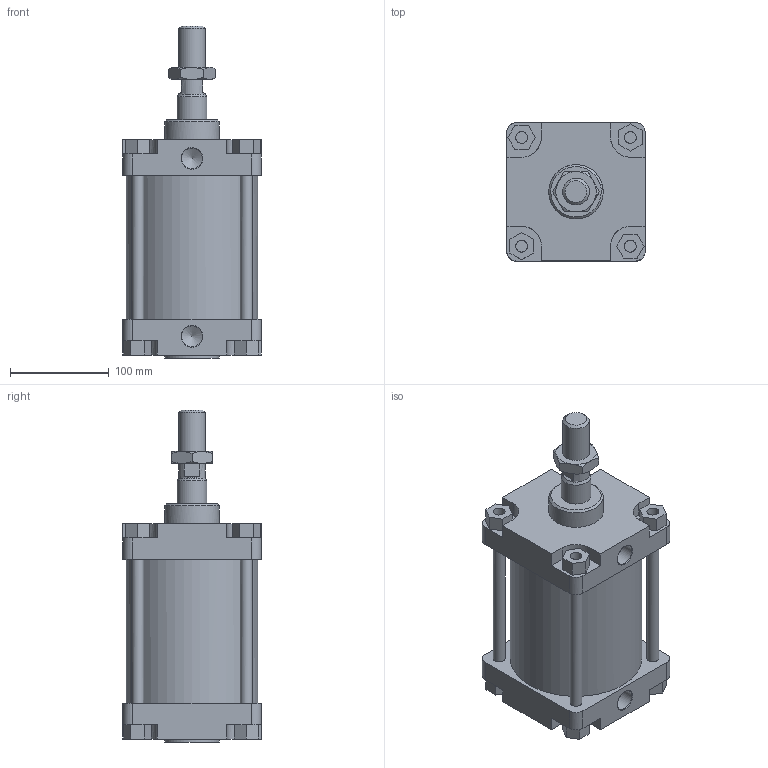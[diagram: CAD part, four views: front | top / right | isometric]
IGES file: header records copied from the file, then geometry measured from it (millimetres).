
Global section: file name: 1305_125_0050_01A; native system: Autodesk Inventor 2014; preprocessor: unknown; author: A. Manieri; date: 20161124.143152; units: millimetre
Bounding box: 140 x 140 x 336 mm (x, y, z)
Volume: 2927103.2 mm3; surface area: 374593.4 mm2
Topology: 9 solids, 9 shells, 175 faces, 440 edges, 295 vertices
Faces by surface type: bspline 175
